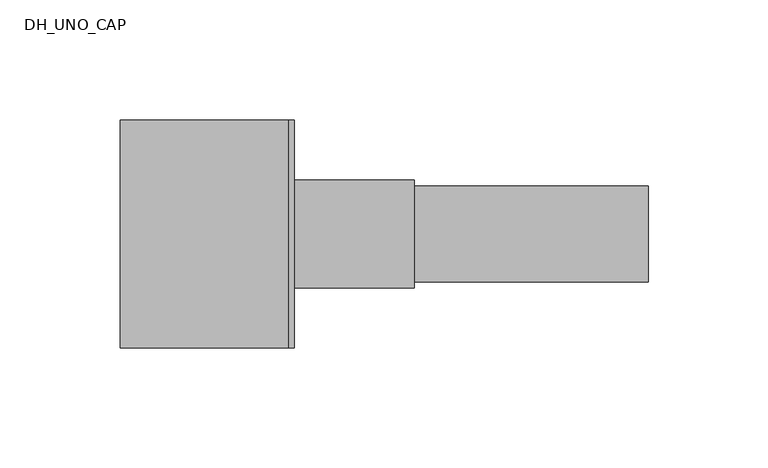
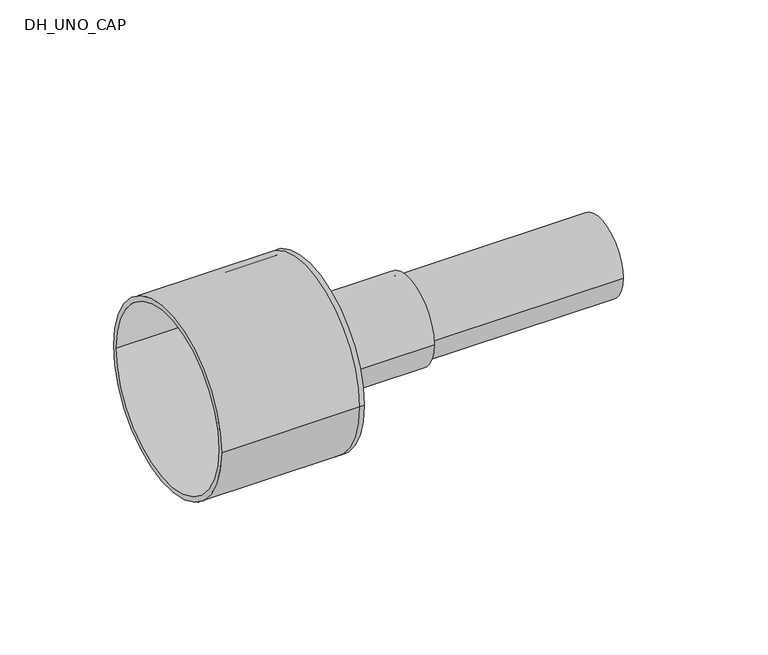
"""IFC4 building model written with IfcOpenShell, lengths in millimetres: pipe fitting geometry, DH_UNO_CAP : INSULPEX UNO 7.4 DW - Rubber Cap."""

from ifc_helpers import new_model, si_unit, point, frame, origin, origin_2d, place, context, project, spatial, polyline, circle_curve, trimmed, segment, composite_curve, outline, extrude, source, transform, mapped, element, save
from ifc_brep_helpers import plane_surface, cylinder_surface, revolved_surface, advanced_brep


def dh_uno_cap_76ab3ae5(model_context):
    return source(origin(), model_context, "Body", "SolidModel", [
        extrude(outline(composite_curve([segment(trimmed(circle_curve(origin_2d(), 20.0), [point((-20.0, 0.0))], [point((20.0, 0.0))], False, "CARTESIAN"), True, "CONTINUOUS"), segment(trimmed(circle_curve(origin_2d(), 20.0), [point((20.0, 0.0))], [point((-20.0, 0.0))], False, "CARTESIAN"), True, "CONTINUOUS")], self_intersect=False), holes=[composite_curve([segment(trimmed(circle_curve(origin_2d(), 14.5), [point((-14.5, 0.0))], [point((14.5, 0.0))], True, "CARTESIAN"), True, "CONTINUOUS"), segment(trimmed(circle_curve(origin_2d(), 14.5), [point((14.5, 0.0))], [point((-14.5, 0.0))], True, "CARTESIAN"), True, "CONTINUOUS")], self_intersect=False)]), frame((0.0, 0.0, 0.0), z_axis=(1.0, 0.0, 0.0), x_axis=(0.0, 1.0, 0.0)), (0.0, 0.0, 1.0), 150.0),
        advanced_brep(
        [(-70.0, -47.5, 0.0), (-70.0, 47.5, 0.0), (-70.0, -45.0, 0.0), (-70.0, 45.0, 0.0), (0.0, -45.0, 0.0), (0.0, 45.0, 0.0), (0.0, -47.5, 0.0), (0.0, 47.5, 0.0), (0.0, 20.0, 0.0), (0.0, -20.0, 0.0), (2.5, -47.5, 0.0), (2.5, 47.5, 0.0), (2.5, -20.0, 0.0), (2.5, 20.0, 0.0)],
        [
            (0, 1, circle_curve(frame((-70.0, 0.0, 0.0), z_axis=(-1.0, 0.0, 0.0), x_axis=(0.0, 1.0, 0.0)), 47.5)),
            (1, 0, circle_curve(frame((-70.0, 0.0, 0.0), z_axis=(-1.0, 0.0, 0.0), x_axis=(0.0, 1.0, 0.0)), 47.5)),
            (2, 3, circle_curve(frame((-70.0, 0.0, 0.0), z_axis=(1.0, 0.0, 0.0), x_axis=(0.0, 1.0, 0.0)), 45.0)),
            (3, 2, circle_curve(frame((-70.0, 0.0, 0.0), z_axis=(1.0, 0.0, 0.0), x_axis=(0.0, 1.0, 0.0)), 45.0)),
            (2, 4),
            (4, 5, circle_curve(frame((0.0, 0.0, 0.0), z_axis=(1.0, 0.0, 0.0), x_axis=(0.0, 1.0, 0.0)), 45.0)),
            (5, 3),
            (5, 4, circle_curve(frame((0.0, 0.0, 0.0), z_axis=(1.0, 0.0, 0.0), x_axis=(0.0, 1.0, 0.0)), 45.0)),
            (0, 6),
            (6, 7, circle_curve(frame((0.0, 0.0, 0.0), z_axis=(-1.0, 0.0, 0.0), x_axis=(0.0, 1.0, 0.0)), 47.5)),
            (7, 1),
            (7, 6, circle_curve(frame((0.0, 0.0, 0.0), z_axis=(-1.0, 0.0, 0.0), x_axis=(0.0, 1.0, 0.0)), 47.5)),
            (8, 9, circle_curve(frame((0.0, 0.0, 0.0), z_axis=(1.0, 0.0, 0.0), x_axis=(0.0, 1.0, 0.0)), 20.0)),
            (9, 8, circle_curve(frame((0.0, 0.0, 0.0), z_axis=(1.0, 0.0, 0.0), x_axis=(0.0, 1.0, 0.0)), 20.0)),
            (10, 11, circle_curve(frame((2.5, 0.0, 0.0), z_axis=(1.0, 0.0, 0.0), x_axis=(0.0, 1.0, 0.0)), 47.5)),
            (11, 10, circle_curve(frame((2.5, 0.0, 0.0), z_axis=(1.0, 0.0, 0.0), x_axis=(0.0, 1.0, 0.0)), 47.5)),
            (12, 13, circle_curve(frame((2.5, 0.0, 0.0), z_axis=(-1.0, 0.0, 0.0), x_axis=(0.0, 1.0, 0.0)), 20.0)),
            (13, 12, circle_curve(frame((2.5, 0.0, 0.0), z_axis=(-1.0, 0.0, 0.0), x_axis=(0.0, 1.0, 0.0)), 20.0)),
            (11, 7),
            (6, 10),
            (8, 13),
            (12, 9),
        ],
        [
            plane_surface(frame((-70.0, 0.0, 0.0), z_axis=(-1.0, 0.0, 0.0), x_axis=(0.0, 0.0, 1.0))),
            revolved_surface(polyline([(0.0, 45.0, 0.0), (-70.0, 45.0, 0.0)]), (-70.0, 0.0, 0.0), (1.0, 0.0, 0.0)),
            cylinder_surface(frame((-70.0, 0.0, 0.0), z_axis=(-1.0, 0.0, 0.0), x_axis=(0.0, 1.0, 0.0)), 47.5),
            plane_surface(frame((0.0, 0.0, 0.0), z_axis=(-1.0, 0.0, 0.0), x_axis=(0.0, 0.0, 1.0))),
            plane_surface(frame((2.5, 0.0, 0.0), z_axis=(1.0, 0.0, 0.0), x_axis=(0.0, 0.0, 1.0))),
            cylinder_surface(frame((0.0, 0.0, 0.0), z_axis=(-1.0, 0.0, 0.0), x_axis=(0.0, 1.0, 0.0)), 47.5),
            revolved_surface(polyline([(0.0, 20.0, 0.0), (2.5, 20.0, 0.0)]), (0.0, 0.0, 0.0), (-1.0, 0.0, 0.0)),
        ],
        [
            (0, [[1, 2], [3, 4]]),
            (1, [[-3, 5, 6, 7]]),
            (1, [[-4, -7, 8, -5]]),
            (2, [[-1, 9, 10, 11]]),
            (2, [[-2, -11, 12, -9]]),
            (3, [[-6, -8], [13, 14]]),
            (4, [[15, 16], [17, 18]]),
            (5, [[-16, 19, -10, 20]]),
            (5, [[-15, -20, -12, -19]]),
            (6, [[21, -17, 22, -13]]),
            (6, [[-21, -14, -22, -18]]),
        ],
    ),
        extrude(outline(composite_curve([segment(trimmed(circle_curve(origin_2d(), 22.5), [point((-22.5, 0.0))], [point((22.5, 0.0))], False, "CARTESIAN"), True, "CONTINUOUS"), segment(trimmed(circle_curve(origin_2d(), 22.5), [point((22.5, 0.0))], [point((-22.5, 0.0))], False, "CARTESIAN"), True, "CONTINUOUS")], self_intersect=False), holes=[composite_curve([segment(trimmed(circle_curve(origin_2d(), 20.0), [point((-20.0, 0.0))], [point((20.0, 0.0))], True, "CARTESIAN"), True, "CONTINUOUS"), segment(trimmed(circle_curve(origin_2d(), 20.0), [point((20.0, 0.0))], [point((-20.0, 0.0))], True, "CARTESIAN"), True, "CONTINUOUS")], self_intersect=False)]), frame((2.5, 0.0, 0.0), z_axis=(1.0, 0.0, 0.0), x_axis=(0.0, 1.0, 0.0)), (0.0, 0.0, 1.0), 50.0),
    ])


if __name__ == "__main__":
    model = new_model("IFC4")
    model_context = context("Model", 3, world=origin())
    ifc_project = project(units=[si_unit("LENGTHUNIT", "METRE", prefix="MILLI")], contexts=[model_context])
    site = spatial("IfcSite", under=ifc_project)
    building = spatial("IfcBuilding", under=site)
    placement = place(None, origin())
    dh_uno_cap_shape = dh_uno_cap_76ab3ae5(model_context)
    element("IfcPipeFitting", 1, ObjectType="DH_UNO_CAP : INSULPEX UNO 7.4 DW - Rubber Cap", at=placement, inside=building, context=model_context, shape_type="MappedRepresentation", body=[
        mapped(dh_uno_cap_shape, transform((0.0, 0.0, 0.0), x_axis=(1.0, 0.0, 0.0), y_axis=(0.0, 1.0, 0.0), z_axis=(0.0, 0.0, 1.0))),
    ])
    save(model, "model.ifc")
